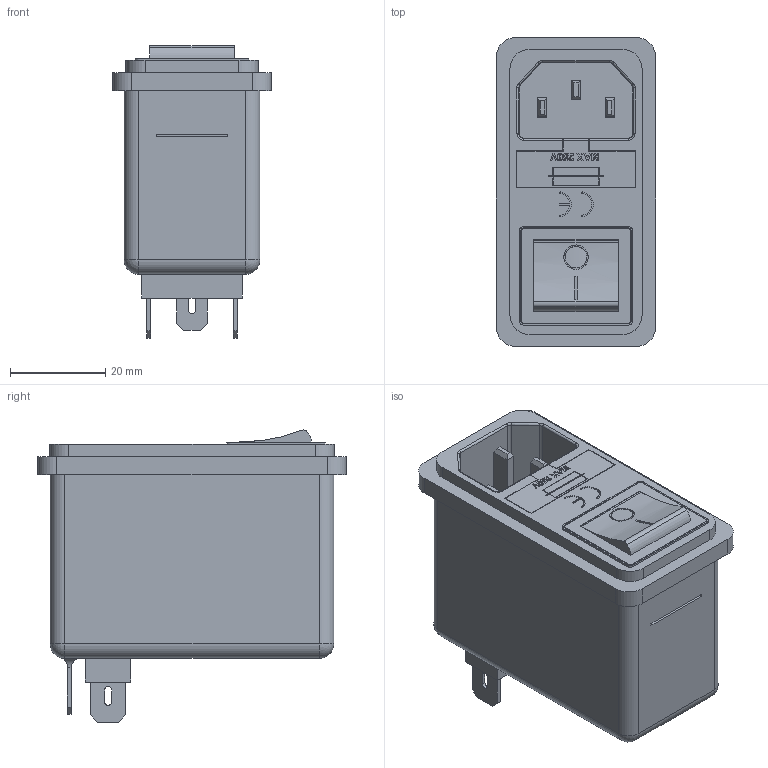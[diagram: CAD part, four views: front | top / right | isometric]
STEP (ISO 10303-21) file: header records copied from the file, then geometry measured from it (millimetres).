
FILE_DESCRIPTION (( 'STEP AP214' ), '1' );
FILE_NAME ('RIQ-EMC.STEP', '2015-02-02T10:01:20', ( '' ), ( '' ), 'SwSTEP 2.0', 'SolidWorks 2014', '' );
FILE_SCHEMA (( 'AUTOMOTIVE_DESIGN' ));
Length unit declared in the file: millimetre
Products named in the file (1): RIQ-EMC
Bounding box: 33.4 x 64.8 x 61.32 mm (x, y, z)
Volume: 72582 mm3; surface area: 15279.5 mm2
Topology: 1 solids, 1 shells, 369 faces, 948 edges, 610 vertices
Faces by surface type: plane 235, cylinder 85, bspline 31, torus 14, sphere 4
Entity records: 16297 total; most frequent: CARTESIAN_POINT 3809, ORIENTED_EDGE 1888, DIRECTION 1726, EDGE_CURVE 944, LINE 696, VECTOR 696, VERTEX_POINT 610, AXIS2_PLACEMENT_3D 515
